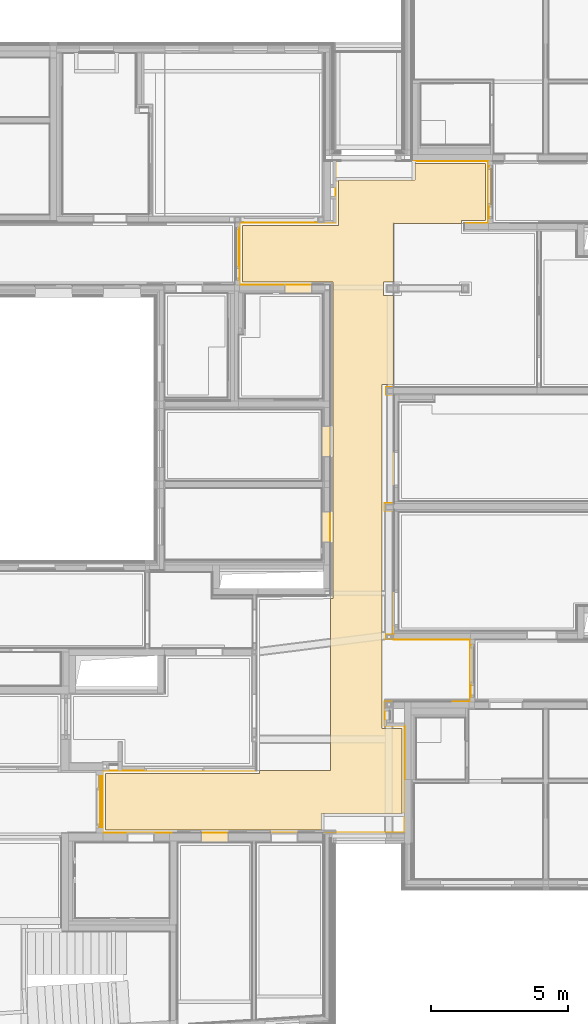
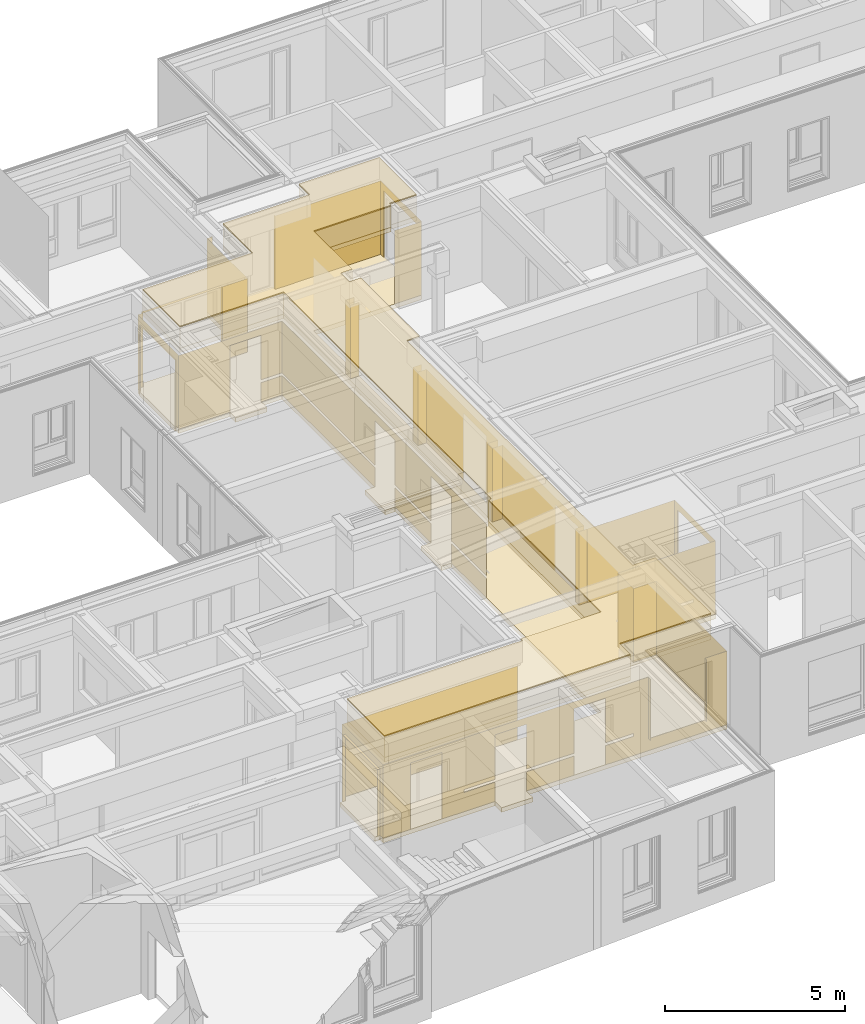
# One storey, part 188 of 222: 6 coverings.
"""IFC4 building model written with IfcOpenShell, lengths in metres."""

import ifcopenshell
import ifcopenshell.guid

model = None  # the IFC model being written
_history = None  # IfcOwnerHistory: only IFC2X3 demands one
_inside = {}  # id of a spatial element -> (the spatial element, [elements in it])
_under = {}  # id of a project, library or spatial element -> (it, [spatial elements below it])
_declared = {}  # id of a project -> (the project, [libraries it declares])
_typed = {}  # id of a type object -> (the type object, [elements of that type])
_made_of = {}  # id of a material, layer set ... -> (it, [elements and type objects made of it])


def new_model(schema):
    """Start an empty IFC model of exactly this schema.

    Asked for "IFC4X3", IfcOpenShell would pick the latest addendum, in which some entities
    have other attributes; the version numbers below select the first issue.
    IFC2X3 requires an IfcOwnerHistory on every rooted entity: one is made here for all.
    """
    global model, _history
    if schema == "IFC4X3":
        model = ifcopenshell.file(schema_version=(4, 3, 0, 0))
    else:
        model = ifcopenshell.file(schema=schema)
    _inside.clear()
    _under.clear()
    _declared.clear()
    _typed.clear()
    _made_of.clear()
    _history = None
    if model.schema == "IFC2X3":
        org = make("IfcOrganization", Name="unknown")
        user = make(
            "IfcPersonAndOrganization",
            ThePerson=make("IfcPerson", FamilyName="unknown"),
            TheOrganization=org,
        )
        app = make(
            "IfcApplication",
            ApplicationDeveloper=org,
            Version="unknown",
            ApplicationFullName="unknown",
            ApplicationIdentifier="unknown",
        )
        _history = make(
            "IfcOwnerHistory",
            OwningUser=user,
            OwningApplication=app,
            ChangeAction="ADDED",
            CreationDate=0,
        )
    return model


def make(cls, **values):
    """One entity of the class cls with the attributes given. An attribute that is None is left unset."""
    return model.create_entity(
        cls, **{name: value for name, value in values.items() if value is not None}
    )


def entity(cls, *values):
    """Any entity or typed value of the class cls, its attributes in the order of the schema. None: left unset."""
    e = model.create_entity(cls)
    for i, value in enumerate(values):
        if value is not None:
            e[i] = value
    return e


def rooted(cls, **values):
    """An entity with a GlobalId (a new one), such as an element, a storey or a relation."""
    return make(cls, GlobalId=ifcopenshell.guid.new(), OwnerHistory=_history, **values)


def si_unit(unit_type, name, prefix=None):
    """IfcSIUnit, for example si_unit("LENGTHUNIT", "METRE", prefix="MILLI")."""
    return make("IfcSIUnit", UnitType=unit_type, Prefix=prefix, Name=name)


def converted_unit(unit_type, name, factor, base, dimensions=None, offset=None):
    """IfcConversionBasedUnit, such as the inch: factor (a typed value) times the base unit."""
    return make(
        "IfcConversionBasedUnit"
        if offset is None
        else "IfcConversionBasedUnitWithOffset",
        ConversionOffset=offset,
        Dimensions=None
        if dimensions is None
        else entity("IfcDimensionalExponents", *dimensions),
        UnitType=unit_type,
        Name=name,
        ConversionFactor=make(
            "IfcMeasureWithUnit", ValueComponent=factor, UnitComponent=base
        ),
    )


def derived_unit(unit_type, elements):
    """IfcDerivedUnit: a product of units, each with its exponent."""
    return make(
        "IfcDerivedUnit",
        Elements=[
            make("IfcDerivedUnitElement", Unit=unit, Exponent=power)
            for unit, power in elements
        ],
        UnitType=unit_type,
    )


def assignment(units):
    """IfcUnitAssignment: the units of a project."""
    return None if units is None else make("IfcUnitAssignment", Units=units)


def point(xyz):
    """IfcCartesianPoint."""
    return None if xyz is None else make("IfcCartesianPoint", Coordinates=xyz)


def direction(xyz):
    """IfcDirection."""
    return None if xyz is None else make("IfcDirection", DirectionRatios=xyz)


def frame(location, z_axis=None, x_axis=None):
    """IfcAxis2Placement3D, a coordinate frame: its origin and axes. An axis left out is left unset."""
    return make(
        "IfcAxis2Placement3D",
        Location=point(location),
        Axis=direction(z_axis),
        RefDirection=direction(x_axis),
    )


def frame_2d(location, x_axis=None):
    """IfcAxis2Placement2D, a coordinate frame in the plane: its origin and x axis."""
    return make(
        "IfcAxis2Placement2D", Location=point(location), RefDirection=direction(x_axis)
    )


def origin():
    """The frame at (0, 0, 0) with its axes left unset."""
    return frame((0.0, 0.0, 0.0))


def place(relative_to, where):
    """IfcLocalPlacement: puts the frame where relative to a parent placement (None: the world)."""
    return make(
        "IfcLocalPlacement", PlacementRelTo=relative_to, RelativePlacement=where
    )


def context(
    kind, dimensions, precision=None, world=None, true_north=None, identifier=None
):
    """IfcGeometricRepresentationContext, for example the 3D "Model" context."""
    return make(
        "IfcGeometricRepresentationContext",
        ContextIdentifier=identifier,
        ContextType=kind,
        CoordinateSpaceDimension=dimensions,
        Precision=precision,
        WorldCoordinateSystem=world,
        TrueNorth=true_north,
    )


def subcontext(parent, identifier, kind, view, scale=None):
    """IfcGeometricRepresentationSubContext, for example "Body" below "Model"."""
    return make(
        "IfcGeometricRepresentationSubContext",
        ContextIdentifier=identifier,
        ContextType=kind,
        ParentContext=parent,
        TargetScale=scale,
        TargetView=view,
    )


def project(units=None, contexts=None):
    """IfcProject with its units and contexts."""
    return rooted(
        "IfcProject",
        Name="project",
        RepresentationContexts=contexts,
        UnitsInContext=assignment(units),
    )


def spatial(cls, under=None, at=None, **own):
    """A site, building, storey or space (cls), placed at a placement, below another one or the project."""
    s = rooted(cls, ObjectPlacement=at, **own)
    if under is not None:
        _under.setdefault(under.id(), (under, []))[1].append(s)
    return s


def polyline(points):
    """IfcPolyline through the points."""
    return make("IfcPolyline", Points=[point(p) for p in points])


def profile(cls, at=None, kind="AREA", **sizes):
    """A parametric profile (cls). Its sizes go by their IFC names, for example OverallWidth=200.0."""
    return make(cls, ProfileType=kind, Position=at, **sizes)


def rectangle(**sizes):
    """IfcRectangleProfileDef."""
    return profile("IfcRectangleProfileDef", **sizes)


def outline(outer, holes=None, kind="AREA"):
    """IfcArbitraryClosedProfileDef: a profile drawn as a closed curve; with holes, ...WithVoids."""
    if holes is None:
        return make("IfcArbitraryClosedProfileDef", ProfileType=kind, OuterCurve=outer)
    return make(
        "IfcArbitraryProfileDefWithVoids",
        ProfileType=kind,
        OuterCurve=outer,
        InnerCurves=holes,
    )


def extrude(swept, where, along, depth):
    """IfcExtrudedAreaSolid: the profile swept, set in the frame where, extruded along a direction by depth."""
    return make(
        "IfcExtrudedAreaSolid",
        SweptArea=swept,
        Position=where,
        ExtrudedDirection=direction(along),
        Depth=depth,
    )


def shape(context_of_items, identifier, shape_type, items):
    """IfcShapeRepresentation: the items that make up one representation, for example the "Body"."""
    return make(
        "IfcShapeRepresentation",
        ContextOfItems=context_of_items,
        RepresentationIdentifier=identifier,
        RepresentationType=shape_type,
        Items=items,
    )


def material(Name=None, Category=None):
    """IfcMaterial."""
    return make("IfcMaterial", Name=Name, Category=Category)


def layer(
    of_material, thickness, ventilated=None, Name=None, Category=None, Priority=None
):
    """IfcMaterialLayer: one layer of a wall or slab, of a material (None: an air gap)."""
    return make(
        "IfcMaterialLayer",
        Material=of_material,
        LayerThickness=thickness,
        IsVentilated=ventilated,
        Name=Name,
        Category=Category,
        Priority=Priority,
    )


def layer_set(layers, Name=None):
    """IfcMaterialLayerSet."""
    return make("IfcMaterialLayerSet", MaterialLayers=layers, LayerSetName=Name)


def layer_usage(for_layer_set, set_direction, sense, offset, extent=None):
    """IfcMaterialLayerSetUsage: how a layer set lies in its element."""
    return make(
        "IfcMaterialLayerSetUsage",
        ForLayerSet=for_layer_set,
        LayerSetDirection=set_direction,
        DirectionSense=sense,
        OffsetFromReferenceLine=offset,
        ReferenceExtent=extent,
    )


def made_of(thing, what):
    """Note that an element or type object is made of a material, layer set ...; save() writes the relation."""
    if what is not None:
        _made_of.setdefault(what.id(), (what, []))[1].append(thing)
    return thing


def element(
    cls,
    number,
    at=None,
    inside=None,
    cuts=None,
    type_object=None,
    material=None,
    context=None,
    identifier="Body",
    shape_type=None,
    held_by="IfcProductDefinitionShape",
    body=None,
    shapes=None,
    **own,
):
    """One element of the class cls, such as IfcWall. Its Tag is "e" and its number.

    at: its placement. inside: the storey or other place that contains it. cuts: it is an
    opening in that element (IfcRelVoidsElement). A single representation is given by context,
    identifier, shape_type and body (its items); several are given by shapes. held_by: the class
    of the entity that holds the representations. save() writes the other relations.
    """
    e = rooted(cls, Tag="e%d" % number, ObjectPlacement=at, **own)
    if body is not None:
        shapes = [shape(context, identifier, shape_type, body)]
    if shapes is not None:
        e.Representation = make(held_by, Representations=shapes)
    if inside is not None:
        _inside.setdefault(inside.id(), (inside, []))[1].append(e)
    if cuts is not None:
        rooted(
            "IfcRelVoidsElement", RelatingBuildingElement=cuts, RelatedOpeningElement=e
        )
    if type_object is not None:
        _typed.setdefault(type_object.id(), (type_object, []))[1].append(e)
    return made_of(e, material)


def aggregate(whole, parts):
    """IfcRelAggregates: a whole, such as a stair, and the parts it consists of."""
    return rooted("IfcRelAggregates", RelatingObject=whole, RelatedObjects=parts)


def save(model, path):
    """Write the relations noted so far, then the file.

    IfcRelAggregates (storeys below a building ...), IfcRelContainedInSpatialStructure (elements
    in a storey), IfcRelDefinesByType, IfcRelAssociatesMaterial and IfcRelDeclares: one each for
    every whole, place, type object, material and project.
    """
    for whole, parts in _under.values():
        aggregate(whole, parts)
    for where, things in _inside.values():
        rooted(
            "IfcRelContainedInSpatialStructure",
            RelatedElements=things,
            RelatingStructure=where,
        )
    for kind, things in _typed.values():
        rooted("IfcRelDefinesByType", RelatedObjects=things, RelatingType=kind)
    for what, things in _made_of.values():
        rooted("IfcRelAssociatesMaterial", RelatedObjects=things, RelatingMaterial=what)
    for by, libraries in _declared.values():
        rooted("IfcRelDeclares", RelatingContext=by, RelatedDefinitions=libraries)
    model.write(path)


model = new_model("IFC4")

# Units and contexts
model_context = context("Model", 3, precision=1e-05, world=origin())
body_context = subcontext(model_context, "Body", "Model", "MODEL_VIEW")
ifc_project = project(units=[si_unit("LENGTHUNIT", "METRE"), si_unit("AREAUNIT", "SQUARE_METRE"), si_unit("VOLUMEUNIT", "CUBIC_METRE"), si_unit("MASSUNIT", "GRAM", prefix="KILO"), converted_unit("PLANEANGLEUNIT", "DEGREE", entity("IfcPlaneAngleMeasure", 0.0174532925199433), si_unit("PLANEANGLEUNIT", "RADIAN"), dimensions=[0, 0, 0, 0, 0, 0, 0]), derived_unit("THERMALTRANSMITTANCEUNIT", [(si_unit("POWERUNIT", "WATT"), 1), (si_unit("THERMODYNAMICTEMPERATUREUNIT", "KELVIN"), -1), (si_unit("LENGTHUNIT", "METRE"), -2)]), derived_unit("VOLUMETRICFLOWRATEUNIT", [(si_unit("LENGTHUNIT", "METRE"), 3), (converted_unit("TIMEUNIT", "hour", entity("IfcTimeMeasure", 3600.0), si_unit("TIMEUNIT", "SECOND"), dimensions=[0, 0, 1, 0, 0, 0, 0]), -1), (si_unit("LENGTHUNIT", "METRE"), -1)])], contexts=[model_context])

# Site, building, storey, space
site_placement = place(None, origin())
site = spatial("IfcSite", under=ifc_project, at=site_placement, Name="Psychiatrie Neubau Wunstorf", CompositionType="ELEMENT")
building_placement = place(site_placement, origin())
building = spatial("IfcBuilding", under=site, at=building_placement, Name="Neubau H2 Stationsgebäude", CompositionType="ELEMENT")
storey_placement = place(building_placement, frame((0.0, 0.0, 3.6)))
storey = spatial("IfcBuildingStorey", under=building, at=storey_placement, Name="H2 Ebene +1", CompositionType="ELEMENT", Elevation=3.6)
space_placement = place(storey_placement, frame((59.7893138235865, 0.536002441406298, 0.0)))
space = spatial("IfcSpace", under=storey, at=space_placement, Name="WUN-H2-E01-F07", CompositionType="ELEMENT")

# Coverings
ifc_material_1 = material(Name="Ku1")
ifc_layer_1 = layer(ifc_material_1, 0.15)
ifc_layer_set_1 = layer_set([ifc_layer_1])
ifc_layer_usage_1 = layer_usage(ifc_layer_set_1, "AXIS3", "POSITIVE", 0.0)
covering_1_placement = place(space_placement, frame((-0.165000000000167, -0.365000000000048, 0.0)))
element("IfcCovering", 1, at=covering_1_placement, inside=space, material=ifc_layer_usage_1, Name="PVC Bahnenware Holzoptik", PredefinedType="FLOORING", context=body_context, shape_type="SweptSolid", body=[
    extrude(rectangle(XDim=2.01300094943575, YDim=0.144999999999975, at=frame_2d((1.00650047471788, 0.0724999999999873), x_axis=(1.0, 0.0))), frame((8.86668617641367, 24.9430012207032, 0.0), z_axis=(0.0, 0.0, 1.0), x_axis=(1.0, 0.0, 0.0)), (0.0, 0.0, 1.0), 0.15),
    extrude(rectangle(XDim=0.165000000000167, YDim=1.9425, at=frame_2d((0.0825000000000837, 0.97125), x_axis=(1.0, 0.0))), frame((0.0, 0.534992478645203, 0.0), z_axis=(0.0, 0.0, 1.0), x_axis=(1.0, 0.0, 0.0)), (0.0, 0.0, 1.0), 0.15),
    extrude(rectangle(XDim=0.156000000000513, YDim=2.55, at=frame_2d((1.275, -0.0780000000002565), x_axis=(0.0, -1.0))), frame((5.33518617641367, 22.8489975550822, 0.0), z_axis=(0.0, 0.0, 1.0), x_axis=(1.0, 0.0, 0.0)), (0.0, 0.0, 1.0), 0.15),
    extrude(rectangle(XDim=0.322, YDim=1.01, at=frame_2d((-0.505, 0.161), x_axis=(0.0, 1.0))), frame((7.82118617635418, 20.0929957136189, 0.0), z_axis=(0.0, 0.0, 1.0), x_axis=(1.0, 0.0, 0.0)), (0.0, 0.0, 1.0), 0.15),
    extrude(rectangle(XDim=0.035, YDim=1.968, at=frame_2d((-0.0175, -0.984), x_axis=(-1.0, 0.0))), frame((5.16918617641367, 22.537996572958, 0.0), z_axis=(0.0, 0.0, 1.0), x_axis=(1.0, 0.0, 0.0)), (0.0, 0.0, 1.0), 0.15),
    extrude(rectangle(XDim=0.04, YDim=1.9715, at=frame_2d((0.02, 0.98575), x_axis=(1.0, 0.0))), frame((14.2756861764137, 22.8199975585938, 0.0), z_axis=(0.0, 0.0, 1.0), x_axis=(1.0, 0.0, 0.0)), (0.0, 0.0, 1.0), 0.15),
    extrude(rectangle(XDim=0.120000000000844, YDim=1.965, at=frame_2d((0.060000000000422, 0.9825), x_axis=(1.0, 0.0))), frame((13.6156861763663, 5.31649755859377, 0.0), z_axis=(0.0, 0.0, 1.0), x_axis=(1.0, 0.0, 0.0)), (0.0, 0.0, 1.0), 0.15),
    extrude(rectangle(XDim=0.322, YDim=1.135, at=frame_2d((0.161, 0.5675), x_axis=(1.0, 0.0))), frame((8.17118617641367, 10.9875692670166, 0.0), z_axis=(0.0, 0.0, 1.0), x_axis=(1.0, 0.0, 0.0)), (0.0, 0.0, 1.0), 0.15),
    extrude(rectangle(XDim=1.135, YDim=0.322, at=frame_2d((-0.161, 0.5675), x_axis=(0.0, 1.0))), frame((8.49318617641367, 14.1189975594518, 0.0), z_axis=(0.0, 0.0, 1.0), x_axis=(1.0, 0.0, 0.0)), (0.0, 0.0, 1.0), 0.15),
    extrude(rectangle(XDim=0.365, YDim=1.01, at=frame_2d((-0.505, 0.1825), x_axis=(0.0, 1.0))), frame((4.76991174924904, 0.0, 0.0), z_axis=(0.0, 0.0, 1.0), x_axis=(1.0, 0.0, 0.0)), (0.0, 0.0, 1.0), 0.15),
    extrude(outline(polyline([(10.309671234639, 3.91649755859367), (10.3096811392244, 4.7914975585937), (10.6406762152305, 4.7914975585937), (10.6406762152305, 4.79649755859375), (13.4506861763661, 4.79649755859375), (13.4506861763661, 7.07149755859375), (10.6406861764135, 7.07149755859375), (10.6406861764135, 7.07649737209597), (10.375681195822, 7.07649737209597), (10.375681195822, 7.25649737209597), (10.6406861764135, 7.25649737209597), (10.6406861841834, 11.7779975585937), (10.3246861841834, 11.7779975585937), (10.3246861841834, 11.7780570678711), (10.3096861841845, 11.7780570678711), (10.3096861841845, 12.0500570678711), (10.6406861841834, 12.0500570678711), (10.6406861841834, 16.0244975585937), (10.3646922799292, 16.0244975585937), (10.3646922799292, 16.2964975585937), (10.6406861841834, 16.2964975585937), (10.6406861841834, 19.7679955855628), (10.3646922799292, 19.7679955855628), (10.3646922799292, 20.0499926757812), (10.6406861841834, 20.0499926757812), (10.6406861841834, 22.2999975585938), (14.1106861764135, 22.2999975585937), (14.1106861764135, 24.5814975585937), (11.3216861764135, 24.5814975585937), (11.3216861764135, 24.5780012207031), (8.5316861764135, 24.5780012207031), (8.5316861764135, 22.3279975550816), (5.0041861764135, 22.3279975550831), (5.0041861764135, 20.0499955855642), (8.3281861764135, 20.0499955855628), (8.3281861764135, 2.28149724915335), (0.0, 2.28149724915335), (0.0, 0.0), (11.0461861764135, 0.0), (11.0461762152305, 3.91649755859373), (10.309671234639, 3.91649755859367)])), frame((0.165000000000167, 0.365000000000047, 0.0), z_axis=(0.0, 0.0, 1.0), x_axis=(1.0, 0.0, 0.0)), (0.0, 0.0, 1.0), 0.15),
])
ifc_material_2 = material()
ifc_layer_2 = layer(ifc_material_2, 0.036)
ifc_layer_set_2 = layer_set([ifc_layer_2])
ifc_layer_usage_2 = layer_usage(ifc_layer_set_2, "AXIS3", "POSITIVE", 0.0)
covering_2_placement = place(space_placement, frame((0.0999416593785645, 0.099838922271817, 3.55)))
element("IfcCovering", 2, at=covering_2_placement, inside=space, material=ifc_layer_usage_2, Name="Gipsfaserplatten 2-lagig (BSK)", PredefinedType="CEILING", context=body_context, shape_type="SweptSolid", body=[
    extrude(outline(polyline([(5.63573712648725, 22.199998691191), (8.22824451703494, 22.2000003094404), (8.22824451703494, 15.9124999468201), (8.32824451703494, 15.9124999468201), (8.32824451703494, 4.33150184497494), (5.00424451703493, 4.33150184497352), (5.00424451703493, 2.25350000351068), (8.53174451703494, 2.2535000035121), (8.53174451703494, 0.60349633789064), (11.3217445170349, 0.60349633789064), (11.3217445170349, 0.0), (13.9107445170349, 0.0), (13.9107445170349, 2.08150000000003), (13.0327445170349, 2.0815), (13.0327445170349, 2.1815), (10.5407445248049, 2.18149999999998), (10.5407445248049, 4.33150488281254), (10.1647524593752, 4.33150488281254), (10.1647524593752, 4.81350197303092), (10.5407445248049, 4.81350197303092), (10.5407445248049, 8.08500000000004), (10.1247445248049, 8.08500000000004), (10.1247345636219, 20.665), (10.8462345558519, 20.665), (10.8462445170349, 23.7814975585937), (7.89974451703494, 23.7814975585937), (7.89974451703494, 24.3814976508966), (0.710744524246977, 24.3814976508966), (0.710744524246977, 24.3816586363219), (5.83406212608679e-05, 24.3816511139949), (0.0, 22.3000068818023), (5.63567878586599, 22.3000127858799), (5.63573712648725, 22.199998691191)])), frame((0.0, 24.3816586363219, 0.0), z_axis=(0.0, 0.0, -1.0), x_axis=(1.0, 0.0, 0.0)), (0.0, 0.0, 1.0), 0.036),
])
ifc_material_3 = material(Name="Installationshöhe")
ifc_layer_3 = layer(ifc_material_3, 0.714)
ifc_layer_set_3 = layer_set([ifc_layer_3])
ifc_layer_usage_3 = layer_usage(ifc_layer_set_3, "AXIS3", "POSITIVE", 0.0)
covering_3_placement = place(space_placement, frame((0.0999416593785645, 0.099838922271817, 3.514)))
element("IfcCovering", 3, at=covering_3_placement, inside=space, material=ifc_layer_usage_3, Name="Gipsfaserplatten 2-lagig (BSK)", PredefinedType="CEILING", context=body_context, shape_type="SweptSolid", body=[
    extrude(outline(polyline([(5.63573712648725, 22.199998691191), (8.22824451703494, 22.2000003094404), (8.22824451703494, 15.9124999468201), (8.32824451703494, 15.9124999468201), (8.32824451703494, 4.33150184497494), (5.00424451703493, 4.33150184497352), (5.00424451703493, 2.25350000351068), (8.53174451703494, 2.2535000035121), (8.53174451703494, 0.60349633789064), (11.3217445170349, 0.60349633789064), (11.3217445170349, 0.0), (13.9107445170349, 0.0), (13.9107445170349, 2.08150000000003), (13.0327445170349, 2.0815), (13.0327445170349, 2.1815), (10.5407445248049, 2.18149999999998), (10.5407445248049, 4.33150488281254), (10.1647524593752, 4.33150488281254), (10.1647524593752, 4.81350197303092), (10.5407445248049, 4.81350197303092), (10.5407445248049, 8.08500000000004), (10.1247445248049, 8.08500000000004), (10.1247345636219, 20.665), (10.8462345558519, 20.665), (10.8462445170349, 23.7814975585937), (7.89974451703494, 23.7814975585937), (7.89974451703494, 24.3814976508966), (0.710744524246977, 24.3814976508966), (0.710744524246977, 24.3816586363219), (5.83406212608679e-05, 24.3816511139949), (0.0, 22.3000068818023), (5.63567878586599, 22.3000127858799), (5.63573712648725, 22.199998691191)])), frame((0.0, 24.3816586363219, 0.0), z_axis=(0.0, 0.0, -1.0), x_axis=(1.0, 0.0, 0.0)), (0.0, 0.0, 1.0), 0.714),
])
ifc_material_4 = material(Name="Aa")
ifc_layer_4 = layer(ifc_material_4, 0.15)
ifc_layer_set_4 = layer_set([ifc_layer_4])
ifc_layer_usage_4 = layer_usage(ifc_layer_set_4, "AXIS3", "POSITIVE", 0.0)
covering_4_placement = place(space_placement, frame((0.0999416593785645, 0.099838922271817, 2.8)))
element("IfcCovering", 4, at=covering_4_placement, inside=space, material=ifc_layer_usage_4, Name="Gipsfaserplatten 2-lagig (BSK)", PredefinedType="CEILING", context=body_context, shape_type="SweptSolid", body=[
    extrude(outline(polyline([(5.63573712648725, 22.199998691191), (8.22824451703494, 22.2000003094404), (8.22824451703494, 15.9124999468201), (8.32824451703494, 15.9124999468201), (8.32824451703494, 4.33150184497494), (5.00424451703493, 4.33150184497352), (5.00424451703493, 2.25350000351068), (8.53174451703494, 2.2535000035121), (8.53174451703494, 0.60349633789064), (11.3217445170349, 0.60349633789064), (11.3217445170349, 0.0), (13.9107445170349, 0.0), (13.9107445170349, 2.08150000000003), (13.0327445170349, 2.0815), (13.0327445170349, 2.1815), (10.5407445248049, 2.18149999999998), (10.5407445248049, 4.33150488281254), (10.1647524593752, 4.33150488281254), (10.1647524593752, 4.81350197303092), (10.5407445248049, 4.81350197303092), (10.5407445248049, 8.08500000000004), (10.1247445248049, 8.08500000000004), (10.1247345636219, 20.665), (10.8462345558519, 20.665), (10.8462445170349, 23.7814975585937), (7.89974451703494, 23.7814975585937), (7.89974451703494, 24.3814976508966), (0.710744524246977, 24.3814976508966), (0.710744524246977, 24.3816586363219), (5.83406212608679e-05, 24.3816511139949), (0.0, 22.3000068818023), (5.63567878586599, 22.3000127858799), (5.63573712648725, 22.199998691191)])), frame((0.0, 24.3816586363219, 0.0), z_axis=(0.0, 0.0, -1.0), x_axis=(1.0, 0.0, 0.0)), (0.0, 0.0, 1.0), 0.15),
])
ifc_material_5 = material(Name="D1")
ifc_layer_5 = layer(ifc_material_5, 0.001)
ifc_layer_set_5 = layer_set([ifc_layer_5])
ifc_layer_usage_5 = layer_usage(ifc_layer_set_5, "AXIS3", "POSITIVE", 0.0)
covering_5_placement = place(space_placement, frame((0.0999416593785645, 0.099838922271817, 2.65)))
element("IfcCovering", 5, at=covering_5_placement, inside=space, material=ifc_layer_usage_5, Name="Gipsfaserplatten 2-lagig (BSK)", PredefinedType="CEILING", context=body_context, shape_type="SweptSolid", body=[
    extrude(outline(polyline([(5.63573712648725, 22.199998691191), (8.22824451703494, 22.2000003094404), (8.22824451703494, 15.9124999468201), (8.32824451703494, 15.9124999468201), (8.32824451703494, 4.33150184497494), (5.00424451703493, 4.33150184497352), (5.00424451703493, 2.25350000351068), (8.53174451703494, 2.2535000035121), (8.53174451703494, 0.60349633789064), (11.3217445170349, 0.60349633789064), (11.3217445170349, 0.0), (13.9107445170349, 0.0), (13.9107445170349, 2.08150000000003), (13.0327445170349, 2.0815), (13.0327445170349, 2.1815), (10.5407445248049, 2.18149999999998), (10.5407445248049, 4.33150488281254), (10.1647524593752, 4.33150488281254), (10.1647524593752, 4.81350197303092), (10.5407445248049, 4.81350197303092), (10.5407445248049, 8.08500000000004), (10.1247445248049, 8.08500000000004), (10.1247345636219, 20.665), (10.8462345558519, 20.665), (10.8462445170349, 23.7814975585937), (7.89974451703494, 23.7814975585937), (7.89974451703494, 24.3814976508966), (0.710744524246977, 24.3814976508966), (0.710744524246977, 24.3816586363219), (5.83406212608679e-05, 24.3816511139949), (0.0, 22.3000068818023), (5.63567878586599, 22.3000127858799), (5.63573712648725, 22.199998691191)])), frame((0.0, 24.3816586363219, 0.0), z_axis=(0.0, 0.0, -1.0), x_axis=(1.0, 0.0, 0.0)), (0.0, 0.0, 1.0), 0.001),
])
ifc_material_6 = material(Name="49")
ifc_layer_6 = layer(ifc_material_6, 0.001)
ifc_layer_set_6 = layer_set([ifc_layer_6])
ifc_layer_usage_6 = layer_usage(ifc_layer_set_6, "AXIS3", "POSITIVE", 0.0)
covering_6_placement = place(space_placement, frame((-0.085, -0.102, 0.15)))
element("IfcCovering", 6, at=covering_6_placement, inside=space, material=ifc_layer_usage_6, PredefinedType="CLADDING", context=body_context, shape_type="SweptSolid", body=[
    extrude(rectangle(XDim=3.91649755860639, YDim=2.5, at=frame_2d((1.9582487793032, -1.25), x_axis=(1.0, 0.0))), frame((11.1311861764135, 0.102, 0.0), z_axis=(-0.999999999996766, -2.54339057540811e-06, -1.81422999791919e-22), x_axis=(-2.54339057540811e-06, 0.999999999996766, 0.0)), (0.0, 0.0, 1.0), 0.001),
    extrude(rectangle(XDim=0.736504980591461, YDim=2.5, at=frame_2d((0.36825249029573, -1.25), x_axis=(1.0, 0.0))), frame((11.1311762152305, 4.01849755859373, 0.0), z_axis=(7.03881159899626e-14, -1.0, 0.0), x_axis=(-1.0, -7.03881159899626e-14, 0.0)), (0.0, 0.0, 1.0), 0.001),
    extrude(rectangle(XDim=0.875000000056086, YDim=2.5, at=frame_2d((0.437500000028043, -1.25), x_axis=(1.0, 0.0))), frame((10.394671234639, 4.01849755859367, 0.0), z_axis=(-0.999999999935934, 1.13195261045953e-05, 0.0), x_axis=(1.13195261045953e-05, 0.999999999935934, 0.0)), (0.0, 0.0, 1.0), 0.001),
    extrude(rectangle(XDim=0.330995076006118, YDim=2.5, at=frame_2d((0.165497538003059, -1.25), x_axis=(1.0, 0.0))), frame((10.3946811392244, 4.8934975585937, 0.0), z_axis=(0.0, 1.0, 0.0), x_axis=(1.0, 0.0, 0.0)), (0.0, 0.0, 1.0), 0.001),
    extrude(rectangle(XDim=0.0050000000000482, YDim=2.5, at=frame_2d((0.0025000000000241, -1.25), x_axis=(1.0, 0.0))), frame((10.7256762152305, 4.8934975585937, 0.0), z_axis=(-1.0, 0.0, 0.0), x_axis=(0.0, 1.0, 0.0)), (0.0, 0.0, 1.0), 0.001),
    extrude(outline(polyline([(0.0, 2.5), (2.8100099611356, 2.5), (2.8100099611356, 0.0), (0.0, 0.0), (0.0, 2.5)]), holes=[polyline([(2.10000996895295, 1.85), (9.96895294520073e-06, 1.85), (9.96895294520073e-06, 1.75), (2.10000996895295, 1.75), (2.10000996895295, 1.85)])]), frame((10.7256762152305, 4.89849755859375, 2.5), z_axis=(1.11510829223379e-15, 1.0, 1.22132674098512e-16), x_axis=(1.0, -1.11510829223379e-15, 0.0)), (0.0, 0.0, 1.0), 0.001),
    extrude(outline(polyline([(0.0, 2.5), (0.154999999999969, 2.5), (0.154999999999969, 0.24), (2.11999999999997, 0.24), (2.11999999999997, 2.5), (2.275, 2.5), (2.275, 0.0), (0.0, 0.0), (0.0, 2.5)])), frame((13.5356861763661, 4.89849755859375, 2.5), z_axis=(-1.0, -1.12080784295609e-16, -1.69055182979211e-15), x_axis=(-1.12080784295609e-16, 1.0, 0.0)), (0.0, 0.0, 1.0), 0.001),
    extrude(rectangle(XDim=2.80999999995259, YDim=2.5, at=frame_2d((1.40499999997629, -1.25), x_axis=(1.0, 0.0))), frame((13.5356861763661, 7.17349755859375, 0.0), z_axis=(-3.23663594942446e-16, -1.0, 0.0), x_axis=(-1.0, 3.23663594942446e-16, 0.0)), (0.0, 0.0, 1.0), 0.001),
    extrude(rectangle(XDim=0.00499981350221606, YDim=2.5, at=frame_2d((0.00249990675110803, -1.25), x_axis=(1.0, 0.0))), frame((10.7256861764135, 7.17349755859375, 0.0), z_axis=(-1.0, 0.0, 0.0), x_axis=(0.0, 1.0, 0.0)), (0.0, 0.0, 1.0), 0.001),
    extrude(rectangle(XDim=0.265004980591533, YDim=2.5, at=frame_2d((0.132502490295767, -1.25), x_axis=(1.0, 0.0))), frame((10.7256861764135, 7.17849737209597, 0.0), z_axis=(0.0, -1.0, 0.0), x_axis=(-1.0, 0.0, 0.0)), (0.0, 0.0, 1.0), 0.001),
    extrude(rectangle(XDim=0.18, YDim=2.5, at=frame_2d((0.09, -1.25), x_axis=(1.0, 0.0))), frame((10.460681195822, 7.17849737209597, 0.0), z_axis=(-1.0, 0.0, 0.0), x_axis=(0.0, 1.0, 0.0)), (0.0, 0.0, 1.0), 0.001),
    extrude(rectangle(XDim=0.265004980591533, YDim=2.5, at=frame_2d((0.132502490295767, -1.25), x_axis=(1.0, 0.0))), frame((10.460681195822, 7.35849737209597, 0.0), z_axis=(0.0, 1.0, 0.0), x_axis=(1.0, 0.0, 0.0)), (0.0, 0.0, 1.0), 0.001),
    extrude(outline(polyline([(0.0, 2.5), (0.322504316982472, 2.5), (0.322504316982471, 0.24), (1.58250431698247, 0.24), (1.58250431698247, 2.5), (4.52150018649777, 2.5), (4.52150018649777, 0.0), (0.0, 0.0), (0.0, 2.5)])), frame((10.7256861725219, 7.35849737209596, 2.5), z_axis=(-1.0, 2.09002129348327e-09, -7.19588296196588e-10), x_axis=(2.09002129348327e-09, 1.0, 0.0)), (0.0, 0.0, 1.0), 0.001),
    extrude(rectangle(XDim=0.316, YDim=2.5, at=frame_2d((0.158, -1.25), x_axis=(1.0, 0.0))), frame((10.7256861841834, 11.8799975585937, 0.0), z_axis=(0.0, -1.0, 0.0), x_axis=(-1.0, 0.0, 0.0)), (0.0, 0.0, 1.0), 0.001),
    extrude(rectangle(XDim=5.95092773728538e-05, YDim=2.5, at=frame_2d((2.97546386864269e-05, -1.25), x_axis=(1.0, 0.0))), frame((10.4096861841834, 11.8799975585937, 0.0), z_axis=(-1.0, 0.0, 0.0), x_axis=(0.0, 1.0, 0.0)), (0.0, 0.0, 1.0), 0.001),
    extrude(rectangle(XDim=0.0149999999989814, YDim=2.5, at=frame_2d((0.00749999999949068, -1.25), x_axis=(1.0, 0.0))), frame((10.4096861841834, 11.8800570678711, 0.0), z_axis=(0.0, -1.0, 0.0), x_axis=(-1.0, 0.0, 0.0)), (0.0, 0.0, 1.0), 0.001),
    extrude(rectangle(XDim=0.272, YDim=2.5, at=frame_2d((0.136, -1.25), x_axis=(1.0, 0.0))), frame((10.3946861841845, 11.8800570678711, 0.0), z_axis=(-1.0, 0.0, 0.0), x_axis=(0.0, 1.0, 0.0)), (0.0, 0.0, 1.0), 0.001),
    extrude(rectangle(XDim=0.330999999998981, YDim=2.5, at=frame_2d((0.165499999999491, -1.25), x_axis=(1.0, 0.0))), frame((10.3946861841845, 12.1520570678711, 0.0), z_axis=(0.0, 1.0, 0.0), x_axis=(1.0, 0.0, 0.0)), (0.0, 0.0, 1.0), 0.001),
    extrude(rectangle(XDim=0.0892528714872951, YDim=2.5, at=frame_2d((0.0446264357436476, -1.25), x_axis=(1.0, 0.0))), frame((10.7256861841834, 12.1520570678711, 0.0), z_axis=(-0.999999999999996, -8.57379412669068e-08, 0.0), x_axis=(-8.57379412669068e-08, 0.999999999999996, 0.0)), (0.0, 0.0, 1.0), 0.001),
    extrude(outline(polyline([(0.0, 2.5), (0.549687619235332, 2.5), (0.549687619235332, 0.24), (1.80968761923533, 0.24), (1.80968761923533, 2.5), (3.85612938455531, 2.5), (3.85612938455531, 0.0), (0.0, 0.0), (0.0, 2.5)])), frame((10.7256861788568, 12.2413099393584, 2.5), z_axis=(-1.0, 1.72733562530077e-09, 4.56765109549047e-10), x_axis=(1.72733562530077e-09, 1.0, 0.0)), (0.0, 0.0, 1.0), 0.001),
    extrude(rectangle(XDim=0.0290582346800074, YDim=2.5, at=frame_2d((0.0145291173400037, -1.25), x_axis=(1.0, 0.0))), frame((10.7256861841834, 16.0974393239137, 0.0), z_axis=(-1.0, 0.0, 0.0), x_axis=(0.0, 1.0, 0.0)), (0.0, 0.0, 1.0), 0.001),
    extrude(rectangle(XDim=0.275993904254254, YDim=2.5, at=frame_2d((0.137996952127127, -1.25), x_axis=(1.0, 0.0))), frame((10.7256861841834, 16.1264975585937, 0.0), z_axis=(0.0, -1.0, 0.0), x_axis=(-1.0, 0.0, 0.0)), (0.0, 0.0, 1.0), 0.001),
    extrude(rectangle(XDim=0.272, YDim=2.5, at=frame_2d((0.136, -1.25), x_axis=(1.0, 0.0))), frame((10.4496922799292, 16.1264975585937, 0.0), z_axis=(-1.0, 0.0, 0.0), x_axis=(0.0, 1.0, 0.0)), (0.0, 0.0, 1.0), 0.001),
    extrude(rectangle(XDim=0.275993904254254, YDim=2.5, at=frame_2d((0.137996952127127, -1.25), x_axis=(1.0, 0.0))), frame((10.4496922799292, 16.3984975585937, 0.0), z_axis=(0.0, 1.0, 0.0), x_axis=(1.0, 0.0, 0.0)), (0.0, 0.0, 1.0), 0.001),
    extrude(rectangle(XDim=0.275993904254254, YDim=2.5, at=frame_2d((0.137996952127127, -1.25), x_axis=(1.0, 0.0))), frame((10.7256861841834, 19.8699955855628, 0.0), z_axis=(0.0, -1.0, 0.0), x_axis=(-1.0, 0.0, 0.0)), (0.0, 0.0, 1.0), 0.001),
    extrude(rectangle(XDim=0.281997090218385, YDim=2.5, at=frame_2d((0.140998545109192, -1.25), x_axis=(1.0, 0.0))), frame((10.4496922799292, 19.8699955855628, 0.0), z_axis=(-1.0, 0.0, 0.0), x_axis=(0.0, 1.0, 0.0)), (0.0, 0.0, 1.0), 0.001),
    extrude(rectangle(XDim=0.275993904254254, YDim=2.5, at=frame_2d((0.137996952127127, -1.25), x_axis=(1.0, 0.0))), frame((10.4496922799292, 20.1519926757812, 0.0), z_axis=(0.0, 1.0, 0.0), x_axis=(1.0, 0.0, 0.0)), (0.0, 0.0, 1.0), 0.001),
    extrude(rectangle(XDim=0.878000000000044, YDim=2.5, at=frame_2d((0.439000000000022, -1.25), x_axis=(1.0, 0.0))), frame((13.3176861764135, 22.4019975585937, 0.0), z_axis=(1.65739353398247e-14, 1.0, 0.0), x_axis=(1.0, -1.65739353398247e-14, 0.0)), (0.0, 0.0, 1.0), 0.001),
    extrude(outline(polyline([(0.0, 2.5), (0.155000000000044, 2.5), (0.155000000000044, 0.24), (2.12650000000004, 0.24), (2.12650000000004, 2.5), (2.28149999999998, 2.5), (2.28149999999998, 0.0), (0.0, 0.0), (0.0, 2.5)])), frame((14.1956861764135, 22.4019975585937, 2.5), z_axis=(-1.0, 0.0, 0.0), x_axis=(0.0, 1.0, 0.0)), (0.0, 0.0, 1.0), 0.001),
    extrude(rectangle(XDim=2.789, YDim=2.5, at=frame_2d((1.3945, -1.25), x_axis=(1.0, 0.0))), frame((14.1956861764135, 24.6834975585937, 0.0), z_axis=(-1.9566038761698e-14, -1.0, 0.0), x_axis=(-1.0, 1.9566038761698e-14, 0.0)), (0.0, 0.0, 1.0), 0.001),
    extrude(rectangle(XDim=0.00349633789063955, YDim=2.5, at=frame_2d((0.00174816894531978, -1.25), x_axis=(1.0, 0.0))), frame((11.4066861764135, 24.6834975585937, 0.0), z_axis=(1.0, 0.0, 0.0), x_axis=(0.0, -1.0, 0.0)), (0.0, 0.0, 1.0), 0.001),
    extrude(rectangle(XDim=0.606999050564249, YDim=2.5, at=frame_2d((0.303499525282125, -1.25), x_axis=(1.0, 0.0))), frame((11.4066861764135, 24.6800012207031, 0.0), z_axis=(0.0, -1.0, 0.0), x_axis=(-1.0, 0.0, 0.0)), (0.0, 0.0, 1.0), 0.001),
    extrude(rectangle(XDim=2.5, YDim=0.17, at=frame_2d((0.085, 1.25), x_axis=(0.0, 1.0))), frame((8.7866861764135, 24.6800012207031, 2.5), z_axis=(0.0, -1.0, 0.0), x_axis=(-1.0, 0.0, 0.0)), (0.0, 0.0, 1.0), 0.001),
    extrude(rectangle(XDim=2.25000366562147, YDim=2.5, at=frame_2d((1.12500183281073, -1.25), x_axis=(1.0, 0.0))), frame((8.6166861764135, 24.6800012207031, 0.0), z_axis=(1.0, 0.0, 0.0), x_axis=(0.0, -1.0, 0.0)), (0.0, 0.0, 1.0), 0.001),
    extrude(rectangle(XDim=0.8115, YDim=2.5, at=frame_2d((0.40575, -1.25), x_axis=(1.0, 0.0))), frame((8.6166861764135, 22.4299975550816, 0.0), z_axis=(-4.01231180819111e-13, -1.0, 7.27595761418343e-16), x_axis=(-1.0, 4.01231180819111e-13, 0.0)), (0.0, 0.0, 1.0), 0.001),
    extrude(rectangle(XDim=2.5, YDim=0.166, at=frame_2d((0.0830000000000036, 1.25), x_axis=(2.91038304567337e-15, 1.0))), frame((5.25518617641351, 22.429997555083, 2.5), z_axis=(-4.05437397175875e-13, -1.0, 7.27595761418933e-16), x_axis=(-1.0, 4.05437397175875e-13, 0.0)), (0.0, 0.0, 1.0), 0.001),
    extrude(outline(polyline([(0.0, 2.5), (0.155000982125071, 2.5), (0.155000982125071, 0.24), (2.12300098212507, 0.24), (2.12300098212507, 2.5), (2.27800196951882, 2.5), (2.27800196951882, 0.0), (0.0, 0.0), (0.0, 2.5)])), frame((5.0891861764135, 22.4299975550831, 2.5), z_axis=(1.0, 0.0, 0.0), x_axis=(0.0, -1.0, 0.0)), (0.0, 0.0, 1.0), 0.001),
    extrude(outline(polyline([(0.0, 2.5), (1.64199999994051, 2.5), (1.64199999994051, 0.239999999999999), (2.65199999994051, 0.239999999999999), (2.65199999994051, 1.75), (3.324, 1.75), (3.324, 0.0), (0.0, 0.0), (0.0, 2.5)])), frame((5.0891861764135, 20.1519956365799, 2.5), z_axis=(2.95126313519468e-09, 1.0, -1.1921586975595e-08), x_axis=(1.0, -2.95126313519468e-09, 0.0)), (0.0, 0.0, 1.0), 0.001),
    extrude(rectangle(XDim=0.65, YDim=0.672000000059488, at=frame_2d((0.336000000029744, 0.325), x_axis=(0.0, 1.0))), frame((7.74118617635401, 20.1519955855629, 0.65), z_axis=(2.13839528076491e-13, 1.0, 2.21077173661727e-13), x_axis=(1.0, -2.13839528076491e-13, 0.0)), (0.0, 0.0, 1.0), 0.001),
    extrude(rectangle(XDim=5.16099802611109, YDim=0.65, at=frame_2d((2.58049901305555, -0.325), x_axis=(1.0, 0.0))), frame((8.4131861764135, 20.1519955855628, 0.0), z_axis=(1.0, 0.0, 0.0), x_axis=(0.0, -1.0, 0.0)), (0.0, 0.0, 1.0), 0.001),
    extrude(rectangle(XDim=0.65, YDim=1.99642829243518, at=frame_2d((0.998214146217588, 0.325), x_axis=(-2.79844523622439e-15, 1.0))), frame((8.4131861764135, 13.8559975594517, 0.65), z_axis=(1.0, 0.0, 0.0), x_axis=(0.0, -1.0, 0.0)), (0.0, 0.0, 1.0), 0.001),
    extrude(rectangle(XDim=0.65, YDim=1.95357165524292, at=frame_2d((0.97678582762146, 0.325), x_axis=(0.0, 1.0))), frame((8.4131861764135, 10.7245692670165, 0.65), z_axis=(1.0, 0.0, 0.0), x_axis=(0.0, -1.0, 0.0)), (0.0, 0.0, 1.0), 0.001),
    extrude(outline(polyline([(6.29599802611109, 1.75), (8.29242631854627, 1.75), (8.29242631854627, 0.24), (9.42742631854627, 0.24), (9.42742631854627, 1.75), (11.3809979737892, 1.75), (11.3809979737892, 0.0), (0.0, 0.0), (0.0, 1.75), (5.16099802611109, 1.75), (5.16099802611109, 0.24), (6.29599802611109, 0.24), (6.29599802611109, 1.75)])), frame((8.4131861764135, 20.1519955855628, 2.5), z_axis=(1.0, 0.0, 0.0), x_axis=(0.0, -1.0, 0.0)), (0.0, 0.0, 1.0), 0.001),
    extrude(rectangle(XDim=5.63568251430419, YDim=2.5, at=frame_2d((2.81784125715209, -1.25), x_axis=(1.0, 0.0))), frame((5.72068251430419, 2.38349724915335, 0.0), z_axis=(0.0, -1.0, 0.0), x_axis=(-1.0, 0.0, 0.0)), (0.0, 0.0, 1.0), 0.001),
    extrude(outline(polyline([(0.0, 2.5), (0.169004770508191, 2.5), (0.169004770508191, 0.24), (2.11150477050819, 0.24), (2.11150477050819, 2.5), (2.28149724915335, 2.5), (2.28149724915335, 0.0), (0.0, 0.0), (0.0, 2.5)])), frame((0.085, 2.38349724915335, 2.5), z_axis=(1.0, 0.0, 0.0), x_axis=(0.0, -1.0, 0.0)), (0.0, 0.0, 1.0), 0.001),
    extrude(outline(polyline([(0.0, 2.5), (0.884911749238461, 2.5), (0.884911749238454, 0.24), (1.89491174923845, 0.24), (1.89491174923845, 2.5), (3.59491174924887, 2.5), (3.59491174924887, 1.85), (2.59547982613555, 1.85), (2.59547982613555, 1.75), (3.59491174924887, 1.75), (3.59491174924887, 0.24), (4.60491174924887, 0.24), (4.60491174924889, 1.75), (6.13568617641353, 1.75), (6.13568617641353, 0.24), (7.14568617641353, 0.24), (7.14568617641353, 1.75), (8.0416861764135, 1.75), (8.0416861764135, 1.85), (7.14568617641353, 1.85), (7.14568617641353, 2.5), (11.0461861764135, 2.5), (11.0461861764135, 0.0), (10.3396861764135, 0.0), (10.3396861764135, 2.1), (8.5251861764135, 2.1), (8.5251861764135, 0.0), (0.0, 0.0), (0.0, 2.5)])), frame((0.085, 0.101999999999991, 2.5), z_axis=(2.24063035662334e-16, 1.0, 2.97959153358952e-15), x_axis=(1.0, -2.24063035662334e-16, 0.0)), (0.0, 0.0, 1.0), 0.001),
    extrude(rectangle(XDim=0.65, YDim=1.53077442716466, at=frame_2d((-0.765387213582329, -0.325), x_axis=(0.0, -1.0))), frame((6.22068617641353, 0.102, 0.0), z_axis=(-7.42675313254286e-17, 1.0, -1.57412544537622e-15), x_axis=(1.0, 7.42675313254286e-17, 0.0)), (0.0, 0.0, 1.0), 0.001),
    extrude(rectangle(XDim=2.26, YDim=0.04, at=frame_2d((0.02, 1.13), x_axis=(0.0, 1.0))), frame((13.5756861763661, 7.01849755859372, 2.26), z_axis=(0.0, -1.0, 0.0), x_axis=(-1.0, 0.0, 0.0)), (0.0, 0.0, 1.0), 0.001),
    extrude(rectangle(XDim=1.965, YDim=0.04, at=frame_2d((-0.02, -0.9825), x_axis=(0.0, -1.0))), frame((13.5756861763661, 5.05349755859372, 2.26), z_axis=(0.0, 0.0, -1.0), x_axis=(1.0, 0.0, 0.0)), (0.0, 0.0, 1.0), 0.001),
    extrude(rectangle(XDim=0.04, YDim=2.26, at=frame_2d((0.02, -1.13), x_axis=(1.0, 0.0))), frame((13.5356861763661, 5.05349755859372, 0.0), z_axis=(0.0, 1.0, 0.0), x_axis=(1.0, 0.0, 0.0)), (0.0, 0.0, 1.0), 0.001),
    extrude(rectangle(XDim=2.26, YDim=0.04, at=frame_2d((0.02, 1.13), x_axis=(0.0, 1.0))), frame((14.2356861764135, 24.5284975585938, 2.26), z_axis=(-4.54747350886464e-14, -1.0, 8.04862567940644e-16), x_axis=(-1.0, 4.54747350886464e-14, 0.0)), (0.0, 0.0, 1.0), 0.001),
    extrude(rectangle(XDim=1.9715, YDim=0.04, at=frame_2d((-0.02, -0.98575), x_axis=(0.0, -1.0))), frame((14.2356861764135, 22.5569975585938, 2.26), z_axis=(0.0, 0.0, -1.0), x_axis=(1.0, 0.0, 0.0)), (0.0, 0.0, 1.0), 0.001),
    extrude(rectangle(XDim=0.04, YDim=2.26, at=frame_2d((0.02, -1.13), x_axis=(1.0, 0.0))), frame((14.1956861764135, 22.5569975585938, 0.0), z_axis=(0.0, 1.0, 0.0), x_axis=(1.0, 0.0, 0.0)), (0.0, 0.0, 1.0), 0.001),
    extrude(rectangle(XDim=0.0649999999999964, YDim=2.5, at=frame_2d((0.0324999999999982, -1.25), x_axis=(1.0, 0.0))), frame((10.7996871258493, 24.6800012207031, 0.0), z_axis=(-1.0, 0.0, 0.0), x_axis=(0.0, 1.0, 0.0)), (0.0, 0.0, 1.0), 0.001),
    extrude(rectangle(XDim=0.0649999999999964, YDim=2.5, at=frame_2d((-0.0324999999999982, 1.25), x_axis=(-1.0, 1.39922261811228e-14))), frame((8.7866861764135, 24.6800012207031, 2.5), z_axis=(1.0, 0.0, 0.0), x_axis=(0.0, -1.0, 0.0)), (0.0, 0.0, 1.0), 0.001),
    extrude(rectangle(XDim=0.0760000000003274, YDim=2.5, at=frame_2d((0.0380000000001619, -1.25), x_axis=(1.0, 0.0))), frame((7.8051861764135, 22.4299975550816, 0.0), z_axis=(-1.0, 0.0, 0.0), x_axis=(0.0, 1.0, 0.0)), (0.0, 0.0, 1.0), 0.001),
    extrude(rectangle(XDim=2.55, YDim=0.0760000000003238, at=frame_2d((1.275, -0.0380000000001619), x_axis=(1.0, 0.0))), frame((5.2551861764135, 22.4299975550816, 2.5), z_axis=(0.0, 0.0, -1.0), x_axis=(1.0, 0.0, 0.0)), (0.0, 0.0, 1.0), 0.001),
    extrude(rectangle(XDim=2.5, YDim=0.076000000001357, at=frame_2d((0.0380000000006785, 1.25), x_axis=(0.0, 1.0))), frame((5.2551861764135, 22.505997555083, 2.5), z_axis=(1.0, 0.0, 0.0), x_axis=(0.0, -1.0, 0.0)), (0.0, 0.0, 1.0), 0.001),
    extrude(rectangle(XDim=2.26, YDim=0.0350000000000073, at=frame_2d((0.0175, 1.13), x_axis=(-3.21945027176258e-15, 1.0))), frame((5.0541861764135, 20.306996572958, 2.26), z_axis=(0.0, 1.0, 0.0), x_axis=(1.0, 0.0, 0.0)), (0.0, 0.0, 1.0), 0.001),
    extrude(rectangle(XDim=1.968, YDim=0.035, at=frame_2d((0.0175, 0.984), x_axis=(0.0, 1.0))), frame((5.0541861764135, 22.274996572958, 2.26), z_axis=(0.0, 0.0, -1.0), x_axis=(1.0, 0.0, 0.0)), (0.0, 0.0, 1.0), 0.001),
    extrude(rectangle(XDim=0.035, YDim=2.26, at=frame_2d((0.0175, -1.13), x_axis=(1.0, 0.0))), frame((5.0891861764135, 22.274996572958, 0.0), z_axis=(0.0, -1.0, 0.0), x_axis=(-1.0, 0.0, 0.0)), (0.0, 0.0, 1.0), 0.001),
    extrude(rectangle(XDim=0.0849999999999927, YDim=2.26, at=frame_2d((0.0424999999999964, -1.13), x_axis=(1.0, 0.0))), frame((0.085, 2.21449247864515, 0.0), z_axis=(2.67498441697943e-15, -1.0, 1.00607820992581e-16), x_axis=(-1.0, -2.67498441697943e-15, 0.0)), (0.0, 0.0, 1.0), 0.001),
    extrude(rectangle(XDim=1.9425, YDim=0.0849999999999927, at=frame_2d((-0.0424999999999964, -0.97125), x_axis=(0.0, -1.0))), frame((0.085, 0.271992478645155, 2.26), z_axis=(0.0, 0.0, -1.0), x_axis=(1.0, 0.0, 0.0)), (0.0, 0.0, 1.0), 0.001),
    extrude(rectangle(XDim=2.26, YDim=0.085, at=frame_2d((0.0424999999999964, 1.13), x_axis=(-3.21945027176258e-15, 1.0))), frame((0.0, 0.271992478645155, 2.26), z_axis=(0.0, 1.0, 0.0), x_axis=(1.0, 0.0, 0.0)), (0.0, 0.0, 1.0), 0.001),
    extrude(rectangle(XDim=2.1, YDim=0.102, at=frame_2d((-0.0509999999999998, -1.05), x_axis=(0.0, -1.0))), frame((10.4246861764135, 0.102, 0.4), z_axis=(-1.0, 0.0, 0.0), x_axis=(0.0, 1.0, 0.0)), (0.0, 0.0, 1.0), 0.001),
    extrude(rectangle(XDim=2.1, YDim=0.102, at=frame_2d((-0.0510000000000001, -1.05), x_axis=(2.70682946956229e-17, -1.0))), frame((8.6101861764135, 0.0, 0.4), z_axis=(1.0, 0.0, 0.0), x_axis=(0.0, -1.0, 0.0)), (0.0, 0.0, 1.0), 0.001),
])

save(model, "model.ifc")
